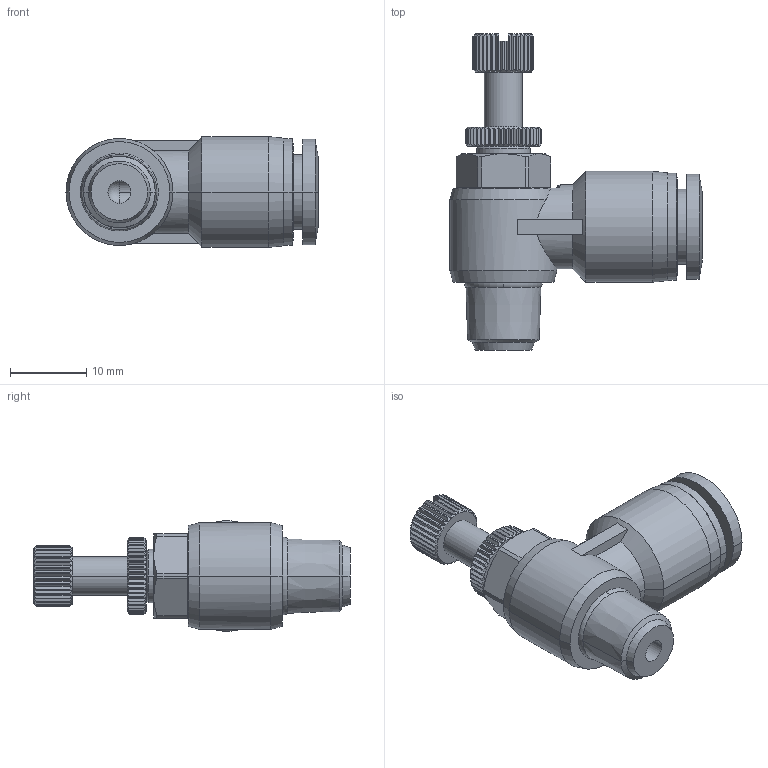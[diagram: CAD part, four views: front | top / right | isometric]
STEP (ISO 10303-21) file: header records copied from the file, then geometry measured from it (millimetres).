
FILE_DESCRIPTION (( 'STEP AP203' ), '1' );
FILE_NAME ('SCL08-01.STEP', '2020-05-12T15:36:01', ( '' ), ( '' ), 'SwSTEP 2.0', 'SolidWorks 2019', '' );
FILE_SCHEMA (( 'CONFIG_CONTROL_DESIGN' ));
Length unit declared in the file: millimetre
Products named in the file (1): SCL08-01
Bounding box: 33 x 41.4 x 14.5 mm (x, y, z)
Volume: 5216.4 mm3; surface area: 3571.4 mm2
Topology: 1 solids, 1 shells, 493 faces, 1105 edges, 625 vertices
Faces by surface type: plane 189, cone 185, cylinder 113, torus 4, sphere 1, bspline 1
Entity records: 13376 total; most frequent: CARTESIAN_POINT 3174, ORIENTED_EDGE 2208, DIRECTION 2168, EDGE_CURVE 1104, AXIS2_PLACEMENT_3D 918, VERTEX_POINT 625, EDGE_LOOP 507, ADVANCED_FACE 493
